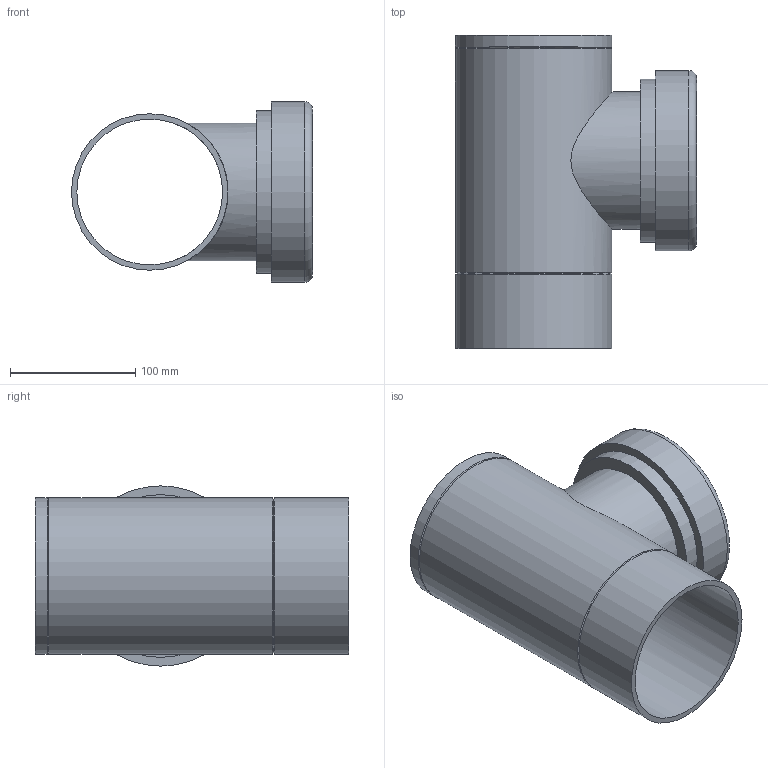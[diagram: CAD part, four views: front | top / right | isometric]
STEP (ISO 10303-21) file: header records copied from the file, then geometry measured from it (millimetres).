
FILE_DESCRIPTION(/* description */ (''),/* implementation_level */ '2;1');
FILE_NAME(/* name */ 'Z:\Geberit\Export\NewStep\368451.stp',/* time_stamp */ '2014-04-02T08:00:25+02:00',/* author */ ('Marco'),/* organization */ (''),/* preprocessor_version */ 'ST-DEVELOPER v15.2',/* originating_system */ 'Autodesk Inventor 2014',/* authorisation */ '');
FILE_SCHEMA (('AUTOMOTIVE_DESIGN { 1 0 10303 214 3 1 1 }'));
Length unit declared in the file: millimetre
Products named in the file (3): 853723; 853404; 368451
Bounding box: 192.5 x 250 x 144 mm (x, y, z)
Volume: 751171.8 mm3; surface area: 293935.7 mm2
Topology: 2 solids, 2 shells, 58 faces, 123 edges, 81 vertices
Faces by surface type: cylinder 29, plane 24, cone 4, torus 1
Full cylindrical faces by diameter (mm): 8 x2, 78 x1, 101.4 x1, 110 x1, 115 x1, 116.4 x1, 125 x3, 130 x2, 144 x1
Entity records: 1708 total; most frequent: CARTESIAN_POINT 371, DIRECTION 284, ORIENTED_EDGE 202, AXIS2_PLACEMENT_3D 122, EDGE_CURVE 101, EDGE_LOOP 92, VERTEX_POINT 77, STYLED_ITEM 60
